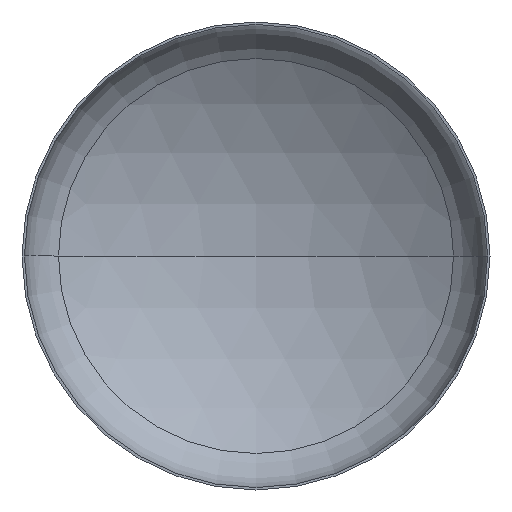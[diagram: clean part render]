
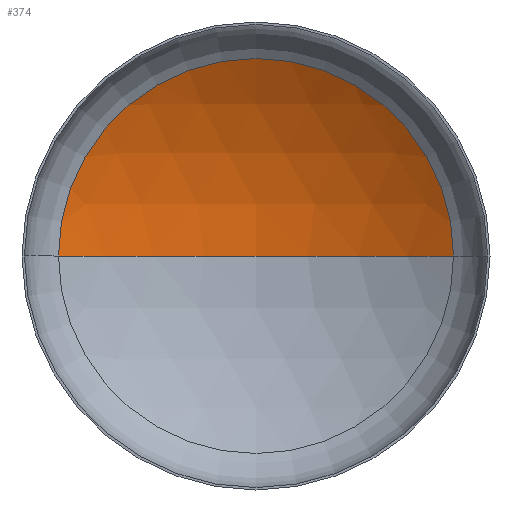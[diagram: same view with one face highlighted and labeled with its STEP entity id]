
A CAD part, front view. The second image highlights one B-rep face of the part: STEP entity #374.
In plain terms, the highlighted spherical face has radius 4000 mm.
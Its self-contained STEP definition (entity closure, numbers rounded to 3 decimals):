
#2 = ORIENTED_EDGE ( 'NONE', *, *, #352, .F. ) ;
#16 = AXIS2_PLACEMENT_3D ( 'NONE', #82, #291, #170 ) ;
#20 = VERTEX_POINT ( 'NONE', #27 ) ;
#27 = CARTESIAN_POINT ( 'NONE',  ( -2110.217, 739.131, 0. ) ) ;
#34 = ORIENTED_EDGE ( 'NONE', *, *, #145, .T. ) ;
#48 = EDGE_LOOP ( 'NONE', ( #2, #34, #130 ) ) ;
#55 = DIRECTION ( 'NONE',  ( -1., 0., 0. ) ) ;
#59 = VERTEX_POINT ( 'NONE', #165 ) ;
#71 = DIRECTION ( 'NONE',  ( 1., 0., 0. ) ) ;
#72 = AXIS2_PLACEMENT_3D ( 'NONE', #249, #401, #55 ) ;
#73 = AXIS2_PLACEMENT_3D ( 'NONE', #171, #329, #71 ) ;
#82 = CARTESIAN_POINT ( 'NONE',  ( 0., -2658.954, 0. ) ) ;
#110 = CIRCLE ( 'NONE', #72, 4000. ) ;
#113 = VERTEX_POINT ( 'NONE', #233 ) ;
#130 = ORIENTED_EDGE ( 'NONE', *, *, #139, .T. ) ;
#139 = EDGE_CURVE ( 'NONE', #113, #20, #205, .T. ) ;
#145 = EDGE_CURVE ( 'NONE', #59, #113, #110, .T. ) ;
#165 = CARTESIAN_POINT ( 'NONE',  ( 0., 1341.046, 0. ) ) ;
#170 = DIRECTION ( 'NONE',  ( 1., 0., 0. ) ) ;
#171 = CARTESIAN_POINT ( 'NONE',  ( 0., 739.131, 0. ) ) ;
#205 = CIRCLE ( 'NONE', #73, 2110.217 ) ;
#206 = DIRECTION ( 'NONE',  ( 0., 0., -1. ) ) ;
#224 = CIRCLE ( 'NONE', #16, 4000. ) ;
#233 = CARTESIAN_POINT ( 'NONE',  ( 2110.217, 739.131, 0. ) ) ;
#249 = CARTESIAN_POINT ( 'NONE',  ( 0., -2658.954, 0. ) ) ;
#273 = DIRECTION ( 'NONE',  ( -1., 0., 0. ) ) ;
#274 = AXIS2_PLACEMENT_3D ( 'NONE', #294, #206, #273 ) ;
#291 = DIRECTION ( 'NONE',  ( 0., 0., 1. ) ) ;
#294 = CARTESIAN_POINT ( 'NONE',  ( 0., -2658.954, 0. ) ) ;
#329 = DIRECTION ( 'NONE',  ( 0., -1., 0. ) ) ;
#332 = FACE_OUTER_BOUND ( 'NONE', #48, .T. ) ;
#352 = EDGE_CURVE ( 'NONE', #59, #20, #224, .T. ) ;
#374 = ADVANCED_FACE ( 'NONE', ( #332 ), #388, .F. ) ;
#388 = SPHERICAL_SURFACE ( 'NONE', #274, 4000. ) ;
#401 = DIRECTION ( 'NONE',  ( 0., 0., -1. ) ) ;
